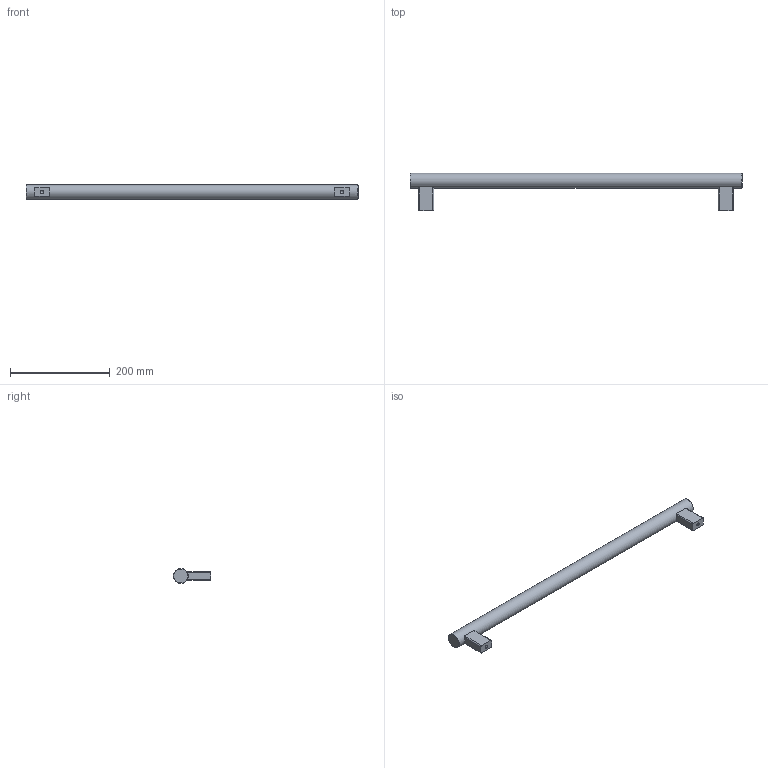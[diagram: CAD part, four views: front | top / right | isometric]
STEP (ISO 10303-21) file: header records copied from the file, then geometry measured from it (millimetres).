
FILE_DESCRIPTION( ( 'STEP AP203' ), '1' );
FILE_NAME( 'C:/Temp/Ganter_Step_05_03_2020/data/1_2/gn_666/Tubular handle GN 666-30-M8-600-NG.stp', '2020-03-05T10:18:27', ( 'License CC BY-ND 4.0' ), ( 'CADENAS' ), ' ', 'PARTsolutions', ' ' );
FILE_SCHEMA( ( 'CONFIG_CONTROL_DESIGN' ) );
Length unit declared in the file: millimetre
Products named in the file (1): _Tubular handle GN 666-30-M8-600-NG
Bounding box: 665 x 75 x 30 mm (x, y, z)
Volume: 517980.3 mm3; surface area: 73398.8 mm2
Topology: 1 solids, 1 shells, 27 faces, 65 edges, 42 vertices
Faces by surface type: plane 12, cylinder 11, cone 4
Full cylindrical faces by diameter (mm): 6.647 x2, 30 x1
Entity records: 882 total; most frequent: CARTESIAN_POINT 238, DIRECTION 124, ORIENTED_EDGE 112, EDGE_CURVE 56, AXIS2_PLACEMENT_3D 48, VERTEX_POINT 42, EDGE_LOOP 36, FACE_OUTER_BOUND 30
